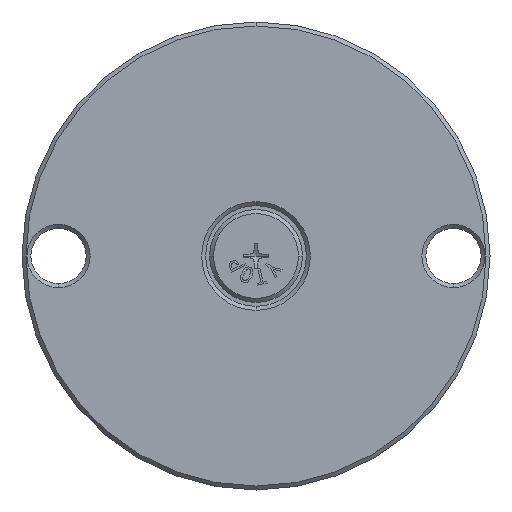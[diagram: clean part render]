
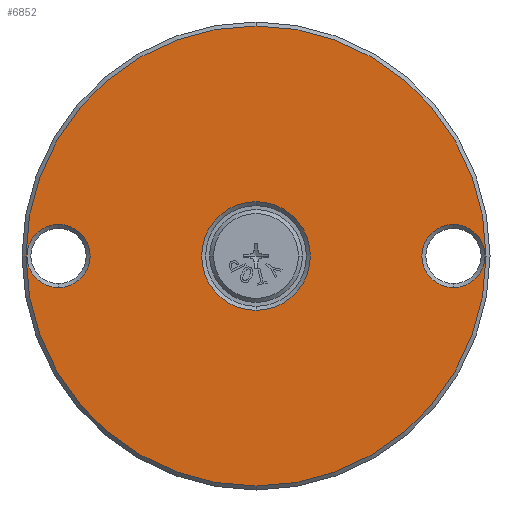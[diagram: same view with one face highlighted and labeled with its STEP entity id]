
A CAD part, front view. The second image highlights one B-rep face of the part: STEP entity #6852.
In plain terms, the highlighted planar face has unit normal (0, -1, 0).
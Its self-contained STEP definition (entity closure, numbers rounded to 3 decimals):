
#52 = EDGE_CURVE ( 'NONE', #6682, #7422, #5268, .T. ) ;
#70 = CARTESIAN_POINT ( 'NONE',  ( 0., 0., 0. ) ) ;
#379 = CIRCLE ( 'NONE', #4477, 13.75 ) ;
#449 = PLANE ( 'NONE',  #4534 ) ;
#450 = DIRECTION ( 'NONE',  ( 0., -1., 0. ) ) ;
#460 = CARTESIAN_POINT ( 'NONE',  ( 0., 0., -58.25 ) ) ;
#737 = AXIS2_PLACEMENT_3D ( 'NONE', #3010, #450, #7572 ) ;
#811 = FACE_BOUND ( 'NONE', #3084, .T. ) ;
#878 = CARTESIAN_POINT ( 'NONE',  ( -50., 0., 8. ) ) ;
#1009 = DIRECTION ( 'NONE',  ( 0., 1., 0. ) ) ;
#1042 = CIRCLE ( 'NONE', #4425, 8. ) ;
#1154 = AXIS2_PLACEMENT_3D ( 'NONE', #1615, #3593, #6843 ) ;
#1287 = DIRECTION ( 'NONE',  ( 0., 0., 1. ) ) ;
#1291 = CARTESIAN_POINT ( 'NONE',  ( -50., 0., 0. ) ) ;
#1615 = CARTESIAN_POINT ( 'NONE',  ( 50., 0., 0. ) ) ;
#1657 = EDGE_CURVE ( 'NONE', #2445, #4646, #3225, .T. ) ;
#1782 = DIRECTION ( 'NONE',  ( 0., -1., 0. ) ) ;
#1826 = EDGE_CURVE ( 'NONE', #3283, #6148, #7892, .T. ) ;
#1970 = CARTESIAN_POINT ( 'NONE',  ( 0., 0., -13.75 ) ) ;
#2046 = CARTESIAN_POINT ( 'NONE',  ( 50., 0., -8. ) ) ;
#2144 = CARTESIAN_POINT ( 'NONE',  ( 0., 0., 58.25 ) ) ;
#2158 = FACE_OUTER_BOUND ( 'NONE', #7237, .T. ) ;
#2382 = ORIENTED_EDGE ( 'NONE', *, *, #52, .T. ) ;
#2410 = CARTESIAN_POINT ( 'NONE',  ( 59.25, 0., 0. ) ) ;
#2415 = VERTEX_POINT ( 'NONE', #1970 ) ;
#2443 = DIRECTION ( 'NONE',  ( 0., 0., 1. ) ) ;
#2445 = VERTEX_POINT ( 'NONE', #4655 ) ;
#2631 = DIRECTION ( 'NONE',  ( 0., 1., 0. ) ) ;
#2653 = EDGE_CURVE ( 'NONE', #4986, #2415, #379, .T. ) ;
#3010 = CARTESIAN_POINT ( 'NONE',  ( 0., 0., 0. ) ) ;
#3025 = ORIENTED_EDGE ( 'NONE', *, *, #6928, .T. ) ;
#3084 = EDGE_LOOP ( 'NONE', ( #2382, #6975 ) ) ;
#3225 = CIRCLE ( 'NONE', #3480, 8. ) ;
#3229 = DIRECTION ( 'NONE',  ( 0., 1., 0. ) ) ;
#3247 = CIRCLE ( 'NONE', #6732, 58.25 ) ;
#3269 = AXIS2_PLACEMENT_3D ( 'NONE', #5622, #6262, #4400 ) ;
#3283 = VERTEX_POINT ( 'NONE', #460 ) ;
#3480 = AXIS2_PLACEMENT_3D ( 'NONE', #1291, #2631, #7212 ) ;
#3593 = DIRECTION ( 'NONE',  ( 0., 1., 0. ) ) ;
#3832 = CARTESIAN_POINT ( 'NONE',  ( 0., 0., 0. ) ) ;
#4100 = AXIS2_PLACEMENT_3D ( 'NONE', #3832, #8365, #4489 ) ;
#4157 = FACE_BOUND ( 'NONE', #6958, .T. ) ;
#4356 = CARTESIAN_POINT ( 'NONE',  ( 0., 0., 0. ) ) ;
#4400 = DIRECTION ( 'NONE',  ( 0., 0., 1. ) ) ;
#4425 = AXIS2_PLACEMENT_3D ( 'NONE', #5433, #1009, #6098 ) ;
#4433 = ORIENTED_EDGE ( 'NONE', *, *, #2653, .T. ) ;
#4434 = EDGE_CURVE ( 'NONE', #7422, #6682, #1042, .T. ) ;
#4477 = AXIS2_PLACEMENT_3D ( 'NONE', #70, #3229, #1287 ) ;
#4489 = DIRECTION ( 'NONE',  ( 0., 0., 1. ) ) ;
#4534 = AXIS2_PLACEMENT_3D ( 'NONE', #2410, #4968, #5021 ) ;
#4646 = VERTEX_POINT ( 'NONE', #878 ) ;
#4655 = CARTESIAN_POINT ( 'NONE',  ( -50., 0., -8. ) ) ;
#4873 = EDGE_LOOP ( 'NONE', ( #4994, #5429 ) ) ;
#4968 = DIRECTION ( 'NONE',  ( 0., 1., 0. ) ) ;
#4986 = VERTEX_POINT ( 'NONE', #5739 ) ;
#4994 = ORIENTED_EDGE ( 'NONE', *, *, #1657, .T. ) ;
#5021 = DIRECTION ( 'NONE',  ( 0., 0., 1. ) ) ;
#5268 = CIRCLE ( 'NONE', #1154, 8. ) ;
#5286 = ORIENTED_EDGE ( 'NONE', *, *, #1826, .T. ) ;
#5429 = ORIENTED_EDGE ( 'NONE', *, *, #7255, .T. ) ;
#5433 = CARTESIAN_POINT ( 'NONE',  ( 50., 0., 0. ) ) ;
#5622 = CARTESIAN_POINT ( 'NONE',  ( -50., 0., 0. ) ) ;
#5739 = CARTESIAN_POINT ( 'NONE',  ( 0., 0., 13.75 ) ) ;
#6098 = DIRECTION ( 'NONE',  ( 0., 0., 1. ) ) ;
#6148 = VERTEX_POINT ( 'NONE', #2144 ) ;
#6262 = DIRECTION ( 'NONE',  ( 0., 1., 0. ) ) ;
#6433 = EDGE_CURVE ( 'NONE', #6148, #3283, #3247, .T. ) ;
#6483 = FACE_BOUND ( 'NONE', #4873, .T. ) ;
#6610 = CARTESIAN_POINT ( 'NONE',  ( 50., 0., 8. ) ) ;
#6682 = VERTEX_POINT ( 'NONE', #2046 ) ;
#6732 = AXIS2_PLACEMENT_3D ( 'NONE', #4356, #1782, #2443 ) ;
#6843 = DIRECTION ( 'NONE',  ( 0., 0., 1. ) ) ;
#6852 = ADVANCED_FACE ( 'NONE', ( #811, #6483, #2158, #4157 ), #449, .F. ) ;
#6928 = EDGE_CURVE ( 'NONE', #2415, #4986, #7597, .T. ) ;
#6958 = EDGE_LOOP ( 'NONE', ( #3025, #4433 ) ) ;
#6975 = ORIENTED_EDGE ( 'NONE', *, *, #4434, .T. ) ;
#7212 = DIRECTION ( 'NONE',  ( 0., 0., 1. ) ) ;
#7237 = EDGE_LOOP ( 'NONE', ( #8085, #5286 ) ) ;
#7255 = EDGE_CURVE ( 'NONE', #4646, #2445, #7387, .T. ) ;
#7387 = CIRCLE ( 'NONE', #3269, 8. ) ;
#7422 = VERTEX_POINT ( 'NONE', #6610 ) ;
#7572 = DIRECTION ( 'NONE',  ( 0., 0., 1. ) ) ;
#7597 = CIRCLE ( 'NONE', #4100, 13.75 ) ;
#7892 = CIRCLE ( 'NONE', #737, 58.25 ) ;
#8085 = ORIENTED_EDGE ( 'NONE', *, *, #6433, .T. ) ;
#8365 = DIRECTION ( 'NONE',  ( 0., 1., 0. ) ) ;
